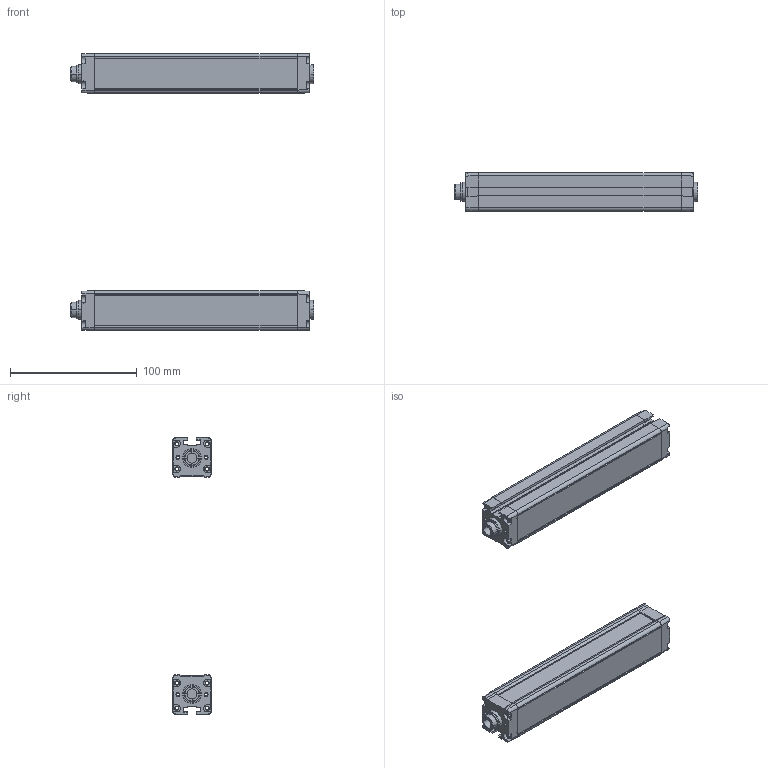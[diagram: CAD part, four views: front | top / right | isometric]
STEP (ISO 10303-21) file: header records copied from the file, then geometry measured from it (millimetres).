
FILE_DESCRIPTION((''),'2;1');
FILE_NAME('ASM0001_ASM','2019-02-27T',('Administrator'),(''),'PRO/ENGINEER BY PARAMETRIC TECHNOLOGY CORPORATION, 2002180','PRO/ENGINEER BY PARAMETRIC TECHNOLOGY CORPORATION, 2002180','');
FILE_SCHEMA(('CONFIG_CONTROL_DESIGN'));
Length unit declared in the file: millimetre
Products named in the file (10): 1; 2; 3; 4; 5; 7; 8; ASM0_ASM; 000000_ASM; ASM0001_ASM
Assembly tree (10 placements, depth 4):
  ASM0001_ASM
    000000_ASM  x2
      1
      2
      3
      4
      5
      ASM0_ASM
        7
        8
Bounding box: 192 x 30.3 x 218.6 mm (x, y, z)
Volume: 109912.2 mm3; surface area: 144202.3 mm2
Topology: 10 solids, 14 shells, 1672 faces, 4558 edges, 2934 vertices
Faces by surface type: plane 1332, cylinder 280, cone 60
Entity records: 26549 total; most frequent: CARTESIAN_POINT 4924, ORIENTED_EDGE 4554, DIRECTION 4271, EDGE_CURVE 2279, VECTOR 1931, LINE 1931, VERTEX_POINT 1467, AXIS2_PLACEMENT_3D 1170
